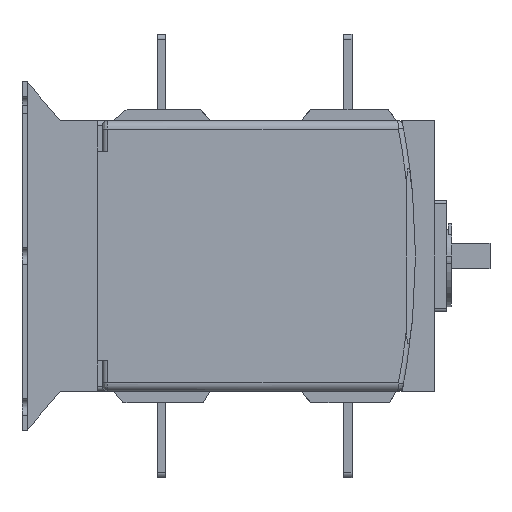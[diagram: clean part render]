
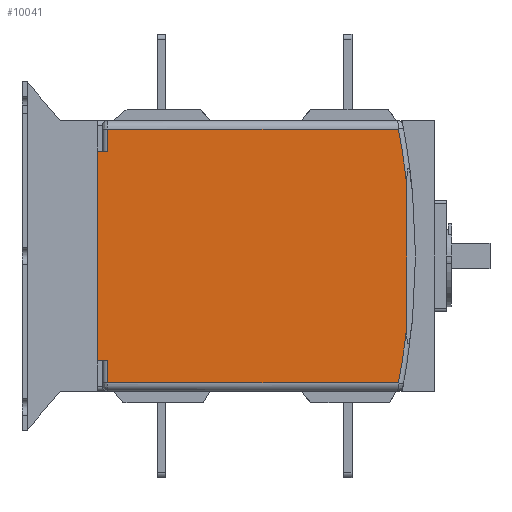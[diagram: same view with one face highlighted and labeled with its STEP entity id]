
A CAD part, left-side view. The second image highlights one B-rep face of the part: STEP entity #10041.
In plain terms, the highlighted planar face has unit normal (-1, 0, 0).
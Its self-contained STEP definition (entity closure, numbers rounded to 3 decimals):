
#268=DIRECTION('',(0.,0.,-1.));
#269=VECTOR('',#268,13.);
#270=CARTESIAN_POINT('',(-115.,-3.,-62.));
#271=LINE('',#270,#269);
#276=DIRECTION('',(0.,1.,0.));
#277=VECTOR('',#276,6.);
#278=CARTESIAN_POINT('',(-115.,-3.,-62.));
#279=LINE('',#278,#277);
#280=DIRECTION('',(0.,-1.,0.));
#281=VECTOR('',#280,6.);
#282=CARTESIAN_POINT('',(-115.,3.,62.));
#283=LINE('',#282,#281);
#284=CARTESIAN_POINT('',(-114.98,227.755,-1.181));
#285=DIRECTION('',(1.,0.,0.));
#286=DIRECTION('',(0.,-0.983,0.186));
#287=AXIS2_PLACEMENT_3D('',#284,#285,#286);
#289=DIRECTION('',(0.,0.,-1.));
#290=VECTOR('',#289,84.175);
#291=CARTESIAN_POINT('',(-115.,-179.77,42.088));
#292=LINE('',#291,#290);
#293=CARTESIAN_POINT('',(-114.983,228.152,1.238));
#294=DIRECTION('',(1.,0.,0.));
#295=DIRECTION('',(0.,-0.994,-0.106));
#296=AXIS2_PLACEMENT_3D('',#293,#294,#295);
#684=DIRECTION('',(0.,0.,-1.));
#685=VECTOR('',#684,13.);
#686=CARTESIAN_POINT('',(-115.,-3.,75.));
#687=LINE('',#686,#685);
#1878=DIRECTION('',(0.,-1.,0.));
#1879=VECTOR('',#1878,171.916);
#1880=CARTESIAN_POINT('',(-115.,-3.,-75.));
#1881=LINE('',#1880,#1879);
#2072=DIRECTION('',(0.,1.,0.));
#2073=VECTOR('',#2072,171.916);
#2074=CARTESIAN_POINT('',(-115.,-174.916,
75.));
#2075=LINE('',#2074,#2073);
#6340=DIRECTION('',(0.,0.,-1.));
#6341=VECTOR('',#6340,124.);
#6342=CARTESIAN_POINT('',(-115.,3.,62.));
#6343=LINE('',#6342,#6341);
#7636=CARTESIAN_POINT('',(-115.,-3.,-75.));
#7637=VERTEX_POINT('',#7636);
#7638=CARTESIAN_POINT('',(-115.,-3.,-62.));
#7639=VERTEX_POINT('',#7638);
#7640=CARTESIAN_POINT('',(-115.,3.,-62.));
#7641=VERTEX_POINT('',#7640);
#7642=CARTESIAN_POINT('',(-115.,3.,62.));
#7643=VERTEX_POINT('',#7642);
#7644=CARTESIAN_POINT('',(-115.,-3.,62.));
#7645=VERTEX_POINT('',#7644);
#7646=CARTESIAN_POINT('',(-115.,-3.,75.));
#7647=VERTEX_POINT('',#7646);
#7648=CARTESIAN_POINT('',(-115.,-174.916,
75.));
#7649=VERTEX_POINT('',#7648);
#7650=CARTESIAN_POINT('',(-115.,-179.768,
42.09));
#7651=VERTEX_POINT('',#7650);
#7652=CARTESIAN_POINT('',(-115.,-179.77,
-42.087));
#7653=VERTEX_POINT('',#7652);
#7654=CARTESIAN_POINT('',(-115.,-174.917,
-75.));
#7655=VERTEX_POINT('',#7654);
#10015=CARTESIAN_POINT('',(-115.,0.,-80.));
#10016=DIRECTION('',(-1.,0.,0.));
#10017=DIRECTION('',(0.,0.,1.));
#10018=AXIS2_PLACEMENT_3D('',#10015,#10016,#10017);
#10019=PLANE('',#10018);
#10020=ORIENTED_EDGE('',*,*,#10005,.F.);
#10022=ORIENTED_EDGE('',*,*,#10021,.T.);
#10024=ORIENTED_EDGE('',*,*,#10023,.F.);
#10026=ORIENTED_EDGE('',*,*,#10025,.T.);
#10028=ORIENTED_EDGE('',*,*,#10027,.F.);
#10030=ORIENTED_EDGE('',*,*,#10029,.F.);
#10032=ORIENTED_EDGE('',*,*,#10031,.T.);
#10034=ORIENTED_EDGE('',*,*,#10033,.T.);
#10036=ORIENTED_EDGE('',*,*,#10035,.T.);
#10038=ORIENTED_EDGE('',*,*,#10037,.F.);
#10039=EDGE_LOOP('',(#10020,#10022,#10024,#10026,#10028,#10030,#10032,#10034,
#10036,#10038));
#10040=FACE_OUTER_BOUND('',#10039,.F.);
#288=CIRCLE('',#287,409.814);
#297=CIRCLE('',#296,410.215);
#10005=EDGE_CURVE('',#7639,#7637,#271,.T.);
#10021=EDGE_CURVE('',#7639,#7641,#279,.T.);
#10023=EDGE_CURVE('',#7643,#7641,#6343,.T.);
#10025=EDGE_CURVE('',#7643,#7645,#283,.T.);
#10027=EDGE_CURVE('',#7647,#7645,#687,.T.);
#10029=EDGE_CURVE('',#7649,#7647,#2075,.T.);
#10031=EDGE_CURVE('',#7649,#7651,#288,.T.);
#10033=EDGE_CURVE('',#7651,#7653,#292,.T.);
#10035=EDGE_CURVE('',#7653,#7655,#297,.T.);
#10037=EDGE_CURVE('',#7637,#7655,#1881,.T.);
#10041=ADVANCED_FACE('',(#10040),#10019,.T.);
